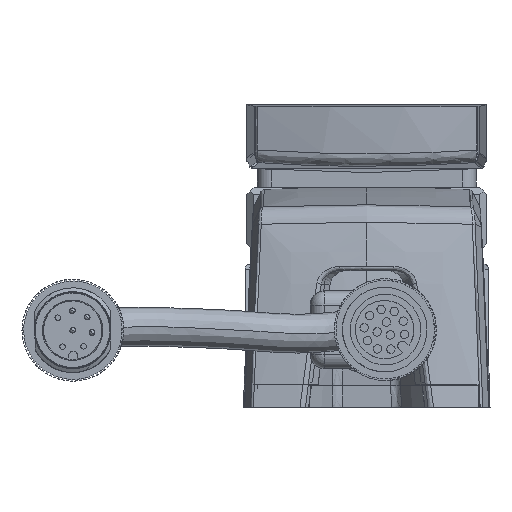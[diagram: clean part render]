
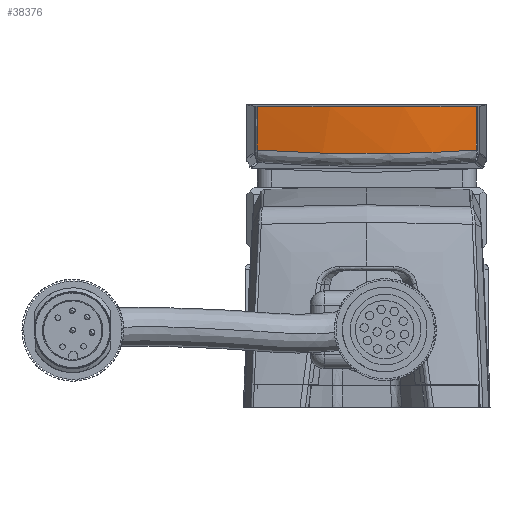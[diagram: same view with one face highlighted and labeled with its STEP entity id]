
A CAD part, front view. The second image highlights one B-rep face of the part: STEP entity #38376.
In plain terms, the highlighted toroidal (fillet/blend) face has major radius 39.939 mm and minor radius 100 mm.
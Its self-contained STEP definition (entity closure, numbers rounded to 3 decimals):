
#5910 = CARTESIAN_POINT ( 'NONE',  ( 168.114, -26.606, 126.956 ) ) ;
#5911 = CARTESIAN_POINT ( 'NONE',  ( 199.094, -26.606, 126.956 ) ) ;
#5912 = CARTESIAN_POINT ( 'NONE',  ( 199.111, -26.162, 120.784 ) ) ;
#5920 = CARTESIAN_POINT ( 'NONE',  ( 168.097, -26.162, 120.784 ) ) ;
#6472 = EDGE_LOOP ( 'NONE', ( #37068, #37067, #37066, #37065 ) ) ;
#11467 = B_SPLINE_CURVE_WITH_KNOTS ( 'NONE', 3,
 ( #23956, #23955, #23961, #23962 ),
 .UNSPECIFIED., .F., .F.,
 ( 4, 4 ),
 ( 0., 0.006 ),
 .UNSPECIFIED. ) ;
#11475 = B_SPLINE_CURVE_WITH_KNOTS ( 'NONE', 3,
 ( #23964, #23963, #23969, #23970 ),
 .UNSPECIFIED., .F., .F.,
 ( 4, 4 ),
 ( 0., 0.006 ),
 .UNSPECIFIED. ) ;
#11875 = B_SPLINE_CURVE_WITH_KNOTS ( 'NONE', 3,
 ( #23678, #23673, #23675, #23680, #23681, #23682, #23683, #23684, #23685, #23686, #23687, #23688 ),
 .UNSPECIFIED., .F., .F.,
 ( 4, 2, 2, 2, 2, 4 ),
 ( 0., 0.008, 0.016, 0.02, 0.024, 0.032 ),
 .UNSPECIFIED. ) ;
#11877 = B_SPLINE_CURVE_WITH_KNOTS ( 'NONE', 3,
 ( #23694, #23679, #23689, #23696, #23697, #23698, #23699, #23700, #23701, #23702, #23703, #23704, #23705, #23706 ),
 .UNSPECIFIED., .F., .F.,
 ( 4, 2, 2, 2, 2, 2, 4 ),
 ( 0., 0.008, 0.012, 0.014, 0.016, 0.024, 0.032 ),
 .UNSPECIFIED. ) ;
#15634 = TOROIDAL_SURFACE ( 'NONE', #15635, -39.939, 100. ) ;
#15635 = AXIS2_PLACEMENT_3D ( 'NONE', #16494, #16068, #16500 ) ;
#16068 = DIRECTION ( 'NONE',  ( 0., 0., -1. ) ) ;
#16069 = FACE_OUTER_BOUND ( 'NONE', #6472, .T. ) ;
#16494 = CARTESIAN_POINT ( 'NONE',  ( 183.604, 31.35, 130.726 ) ) ;
#16500 = DIRECTION ( 'NONE',  ( -1., 0., 0. ) ) ;
#23673 = CARTESIAN_POINT ( 'NONE',  ( 196.556, -27.284, 126.95 ) ) ;
#23675 = CARTESIAN_POINT ( 'NONE',  ( 194., -27.789, 126.946 ) ) ;
#23678 = CARTESIAN_POINT ( 'NONE',  ( 199.094, -26.606, 126.956 ) ) ;
#23679 = CARTESIAN_POINT ( 'NONE',  ( 170.637, -26.829, 120.615 ) ) ;
#23680 = CARTESIAN_POINT ( 'NONE',  ( 188.855, -28.466, 126.94 ) ) ;
#23681 = CARTESIAN_POINT ( 'NONE',  ( 186.266, -28.637, 126.939 ) ) ;
#23682 = CARTESIAN_POINT ( 'NONE',  ( 182.357, -28.641, 126.938 ) ) ;
#23683 = CARTESIAN_POINT ( 'NONE',  ( 181.05, -28.599, 126.939 ) ) ;
#23684 = CARTESIAN_POINT ( 'NONE',  ( 178.427, -28.43, 126.94 ) ) ;
#23685 = CARTESIAN_POINT ( 'NONE',  ( 177.119, -28.302, 126.941 ) ) ;
#23686 = CARTESIAN_POINT ( 'NONE',  ( 173.223, -27.793, 126.946 ) ) ;
#23687 = CARTESIAN_POINT ( 'NONE',  ( 170.654, -27.284, 126.95 ) ) ;
#23688 = CARTESIAN_POINT ( 'NONE',  ( 168.114, -26.606, 126.956 ) ) ;
#23689 = CARTESIAN_POINT ( 'NONE',  ( 173.204, -27.328, 120.486 ) ) ;
#23694 = CARTESIAN_POINT ( 'NONE',  ( 168.097, -26.162, 120.784 ) ) ;
#23696 = CARTESIAN_POINT ( 'NONE',  ( 177.095, -27.83, 120.356 ) ) ;
#23697 = CARTESIAN_POINT ( 'NONE',  ( 178.399, -27.955, 120.323 ) ) ;
#23698 = CARTESIAN_POINT ( 'NONE',  ( 180.366, -28.081, 120.291 ) ) ;
#23699 = CARTESIAN_POINT ( 'NONE',  ( 181.024, -28.112, 120.282 ) ) ;
#23700 = CARTESIAN_POINT ( 'NONE',  ( 182.337, -28.153, 120.272 ) ) ;
#23701 = CARTESIAN_POINT ( 'NONE',  ( 182.992, -28.163, 120.269 ) ) ;
#23702 = CARTESIAN_POINT ( 'NONE',  ( 186.263, -28.161, 120.27 ) ) ;
#23703 = CARTESIAN_POINT ( 'NONE',  ( 188.859, -27.992, 120.314 ) ) ;
#23704 = CARTESIAN_POINT ( 'NONE',  ( 194.014, -27.326, 120.487 ) ) ;
#23705 = CARTESIAN_POINT ( 'NONE',  ( 196.573, -26.829, 120.615 ) ) ;
#23706 = CARTESIAN_POINT ( 'NONE',  ( 199.111, -26.162, 120.784 ) ) ;
#23955 = CARTESIAN_POINT ( 'NONE',  ( 199.103, -26.376, 122.836 ) ) ;
#23956 = CARTESIAN_POINT ( 'NONE',  ( 199.111, -26.162, 120.784 ) ) ;
#23961 = CARTESIAN_POINT ( 'NONE',  ( 199.098, -26.524, 124.895 ) ) ;
#23962 = CARTESIAN_POINT ( 'NONE',  ( 199.094, -26.606, 126.956 ) ) ;
#23963 = CARTESIAN_POINT ( 'NONE',  ( 168.111, -26.524, 124.895 ) ) ;
#23964 = CARTESIAN_POINT ( 'NONE',  ( 168.114, -26.606, 126.956 ) ) ;
#23969 = CARTESIAN_POINT ( 'NONE',  ( 168.105, -26.376, 122.836 ) ) ;
#23970 = CARTESIAN_POINT ( 'NONE',  ( 168.097, -26.162, 120.784 ) ) ;
#27461 = EDGE_CURVE ( 'NONE', #45370, #45369, #11875, .T. ) ;
#27463 = EDGE_CURVE ( 'NONE', #45379, #45371, #11877, .T. ) ;
#27518 = EDGE_CURVE ( 'NONE', #45371, #45370, #11467, .T. ) ;
#27520 = EDGE_CURVE ( 'NONE', #45369, #45379, #11475, .T. ) ;
#37065 = ORIENTED_EDGE ( 'NONE', *, *, #27518, .T. ) ;
#37066 = ORIENTED_EDGE ( 'NONE', *, *, #27463, .T. ) ;
#37067 = ORIENTED_EDGE ( 'NONE', *, *, #27520, .T. ) ;
#37068 = ORIENTED_EDGE ( 'NONE', *, *, #27461, .T. ) ;
#38376 = ADVANCED_FACE ( 'NONE', ( #16069 ), #15634, .T. ) ;
#45369 = VERTEX_POINT ( 'NONE', #5910 ) ;
#45370 = VERTEX_POINT ( 'NONE', #5911 ) ;
#45371 = VERTEX_POINT ( 'NONE', #5912 ) ;
#45379 = VERTEX_POINT ( 'NONE', #5920 ) ;
